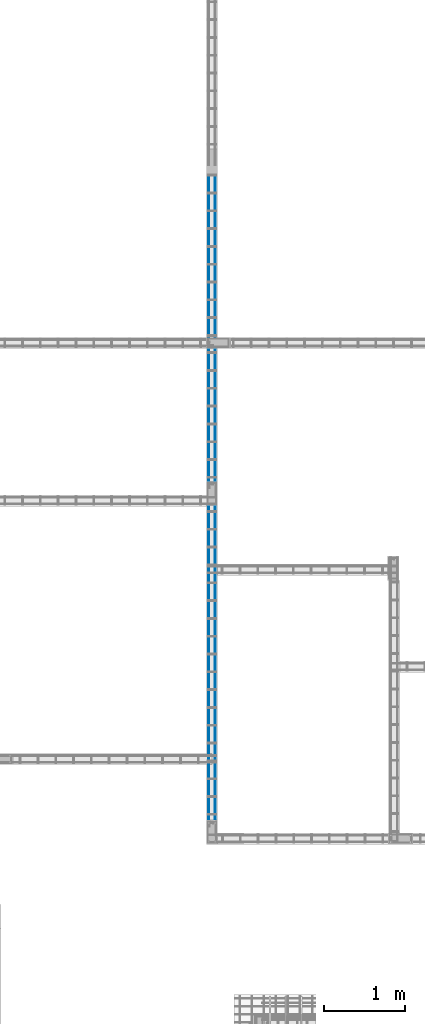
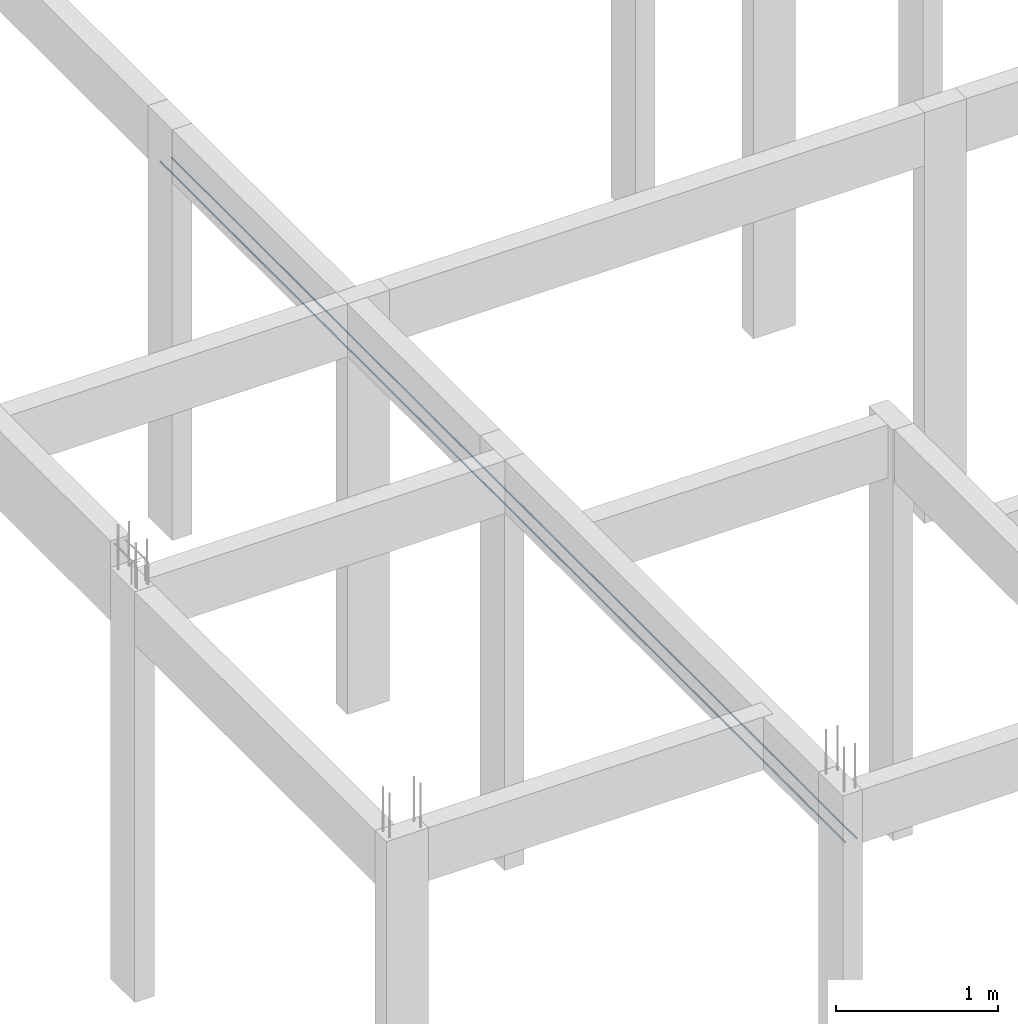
# One storey, part 53 of 236: 2 reinforcing bars.
"""IFC4 building model written with IfcOpenShell, lengths in centimetres."""

from ifc_helpers import new_model, entity, si_unit, derived_unit, frame, origin_with_axes, place, context, project, spatial, element, save


model = new_model("IFC4")

# Units and contexts
model_context = context("Model", 3, precision=1e-05, world=origin_with_axes(), identifier="Body")
ifc_project = project(units=[si_unit("LENGTHUNIT", "METRE", prefix="CENTI"), si_unit("VOLUMEUNIT", "CUBIC_METRE"), si_unit("AREAUNIT", "SQUARE_METRE"), si_unit("POWERUNIT", "WATT"), si_unit("LUMINOUSFLUXUNIT", "LUMEN"), si_unit("ELECTRICCURRENTUNIT", "AMPERE"), si_unit("PRESSUREUNIT", "PASCAL", prefix="KILO"), si_unit("MASSUNIT", "GRAM", prefix="KILO"), si_unit("PLANEANGLEUNIT", "RADIAN"), derived_unit("VOLUMETRICFLOWRATEUNIT", [(si_unit("LENGTHUNIT", "METRE"), 3), (si_unit("TIMEUNIT", "SECOND"), -1)])], contexts=[model_context])

# Site, building, storey
site_placement = place(None, frame((-4000.0, 0.0, 0.0), z_axis=(0.0, 0.0, 1.0), x_axis=(1.0, 0.0, 0.0)))
site = spatial("IfcSite", under=ifc_project, at=site_placement, Name="PADRÃO")
building_placement = place(site_placement, frame((0.0, 0.0, -14.0)))
building = spatial("IfcBuilding", under=site, at=building_placement, Name="CRECHE PRÉ-ESCOLA TIPO 2")
placement_1 = place(building_placement, origin_with_axes())
placement_2 = place(placement_1, frame((0.0, 0.0, 30.0), z_axis=(0.0, 0.0, 1.0), x_axis=(1.0, 0.0, 0.0)))
storey_placement = place(placement_2, frame((0.0, 0.0, 310.0), z_axis=(0.0, 0.0, 1.0), x_axis=(1.0, 0.0, 0.0)))
storey = spatial("IfcBuildingStorey", under=building, at=storey_placement, Name="TERREO", CompositionType="ELEMENT", Elevation=326.0)

# Reinforcing bars
for number, where, z_axis, x_axis, name in (
    (1, (2527.6, 833.55, -36.7), (0.0, 0.0, 1.0), (1.0, 0.0, 0.0), "V296 - Longitudinal inferior"),
    (2, (2519.4, 833.55, -36.7), (0.0, 0.0, 1.0), (1.0, 0.0, 0.0), "V296 - Longitudinal inferior"),
):
    element("IfcReinforcingBar", number, at=place(storey_placement, frame(where, z_axis=z_axis, x_axis=x_axis)), inside=storey, Name=name, BarLength=0.0, CrossSectionArea=5.0265482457e-05, NominalDiameter=0.8, PredefinedType="MAIN", context=model_context, shape_type="AdvancedSweptSolid", body=[
        entity("IfcSweptDiskSolid", entity("IfcCompositeCurve", [entity("IfcCompositeCurveSegment", "CONTINUOUS", True, entity("IfcPolyline", [entity("IfcCartesianPoint", [0.0, -423.53, -0.4]), entity("IfcCartesianPoint", [0.0, 423.53, -0.4])]))], False), 0.4),
    ])

save(model, "model.ifc")
